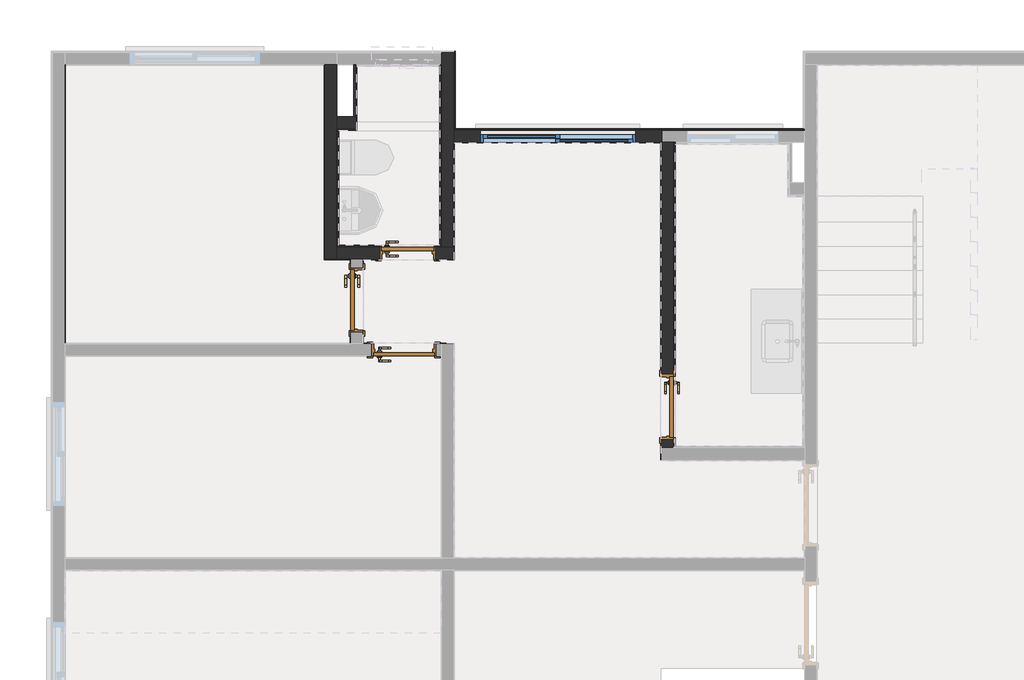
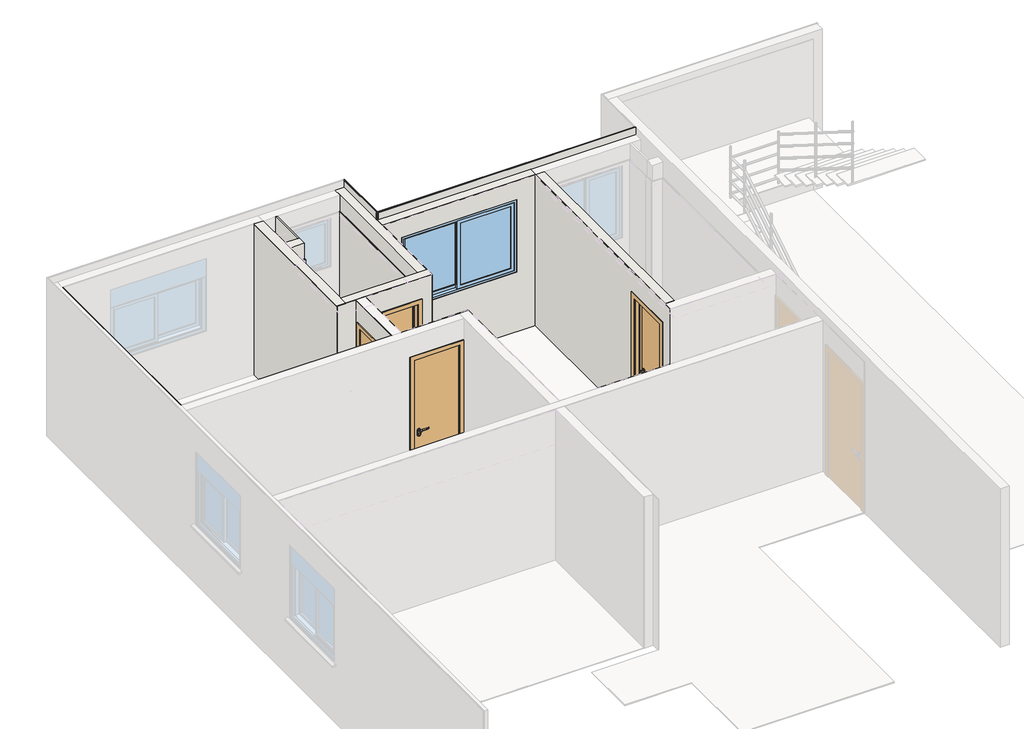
# One storey, part 5 of 11: 27 walls, 4 doors, 1 window.
"""IFC4 building model written with IfcOpenShell, lengths in millimetres."""

from ifc_helpers import new_model, si_unit, frame, origin, origin_with_axes, place, context, project, spatial, polyline, outline, extrude, faceted_brep, transform, mapped, element, save
from components import porta_de_madeira_interna_60_x_210_porta_de_madeira_interna_6d4bee1b, porta_de_madeira_interna_70_x_210_porta_de_madeira_interna_d0067c94, porta_de_madeira_interna_70_x_210_porta_de_madeira_interna_f307109d, window_180x120_e659ab7e

model = new_model("IFC4")

# Units and contexts
model_context = context("Model", 3, world=origin())
ifc_project = project(units=[si_unit("LENGTHUNIT", "METRE", prefix="MILLI")], contexts=[model_context])

# Site, building, storey
site = spatial("IfcSite", under=ifc_project)
building = spatial("IfcBuilding", under=site)
storey = spatial("IfcBuildingStorey", under=building, Name="Térreo", Elevation=0.0)

# Doors
placement = place(None, origin())
porta_de_madeira_interna_60_x_210_porta_de_madeira_interna_shape = porta_de_madeira_interna_60_x_210_porta_de_madeira_interna_6d4bee1b(model_context)
element("IfcDoor", 1, ObjectType="Porta de Madeira Interna 60 x 210 : Porta de Madeira Interna 60 x 210", at=placement, inside=storey, context=model_context, shape_type="MappedRepresentation", body=[
    mapped(porta_de_madeira_interna_60_x_210_porta_de_madeira_interna_shape, transform((4137.9990083, 10003.1988664, 0.0), x_axis=(1.0, 0.0, 0.0), y_axis=(0.0, 1.0, 0.0), z_axis=(0.0, 0.0, 1.0))),
])
porta_de_madeira_interna_70_x_210_porta_de_madeira_interna_shape = porta_de_madeira_interna_70_x_210_porta_de_madeira_interna_d0067c94(model_context)
element("IfcDoor", 2, ObjectType="Porta de Madeira Interna 70 x 210 : Porta de Madeira Interna 70 x 210", at=placement, inside=storey, context=model_context, shape_type="MappedRepresentation", body=[
    mapped(porta_de_madeira_interna_70_x_210_porta_de_madeira_interna_shape, transform((7146.1736861, 8221.3603139, 0.0), x_axis=(0.0, -1.0, 0.0), y_axis=(1.0, 0.0, 0.0), z_axis=(0.0, 0.0, 1.0))),
])
porta_de_madeira_interna_70_x_210_porta_de_madeira_interna_2_shape = porta_de_madeira_interna_70_x_210_porta_de_madeira_interna_f307109d(model_context)
element("IfcDoor", 3, ObjectType="Porta de Madeira Interna 70 x 210 : Porta de Madeira Interna 70 x 210", at=placement, inside=storey, context=model_context, shape_type="MappedRepresentation", body=[
    mapped(porta_de_madeira_interna_70_x_210_porta_de_madeira_interna_2_shape, transform((3546.8230641, 9457.0248023, 0.0), x_axis=(0.0, -1.0, 0.0), y_axis=(1.0, 0.0, 0.0), z_axis=(0.0, 0.0, 1.0))),
])
element("IfcDoor", 4, ObjectType="Porta de Madeira Interna 70 x 210 : Porta de Madeira Interna 70 x 210", at=placement, inside=storey, context=model_context, shape_type="MappedRepresentation", body=[
    mapped(porta_de_madeira_interna_70_x_210_porta_de_madeira_interna_2_shape, transform((4092.999908, 8876.8494803, 0.0), x_axis=(1.0, 0.0, 0.0), y_axis=(0.0, 1.0, 0.0), z_axis=(0.0, 0.0, 1.0))),
])

# Walls
element("IfcWall", 5, ObjectType="Mureta box", at=placement, inside=storey, context=model_context, shape_type="SweptSolid", body=[
    extrude(outline(polyline([(3529.99398, 11505.0235306), (4509.99398, 11505.0235306), (4509.99398, 11495.0235306), (3529.99398, 11495.0235306), (3529.99398, 11505.0235306)])), origin_with_axes(), (0.0, 0.0, 1.0), 90.0),
    extrude(outline(polyline([(4509.99398, 11425.0235306), (3529.99398, 11425.0235306), (3529.99398, 11435.0235306), (4509.99398, 11435.0235306), (4509.99398, 11425.0235306)])), origin_with_axes(), (0.0, 0.0, 1.0), 90.0),
    extrude(outline(polyline([(3529.99398, 11505.0235306), (4509.99398, 11505.0235306), (4509.99398, 11495.0235306), (3529.99398, 11495.0235306), (3529.99398, 11505.0235306)])), origin_with_axes(), (0.0, 0.0, 1.0), 90.0),
    extrude(outline(polyline([(4509.99398, 11425.0235306), (3529.99398, 11425.0235306), (3529.99398, 11435.0235306), (4509.99398, 11435.0235306), (4509.99398, 11425.0235306)])), origin_with_axes(), (0.0, 0.0, 1.0), 90.0),
    extrude(outline(polyline([(3529.99398, 11435.0235306), (3529.99398, 11495.0235306), (4509.99398, 11495.0235306), (4509.99398, 11435.0235306), (3529.99398, 11435.0235306)])), origin_with_axes(), (0.0, 0.0, 1.0), 90.0),
    extrude(outline(polyline([(3529.99398, 11435.0235306), (3529.99398, 11495.0235306), (4509.99398, 11495.0235306), (4509.99398, 11435.0235306), (3529.99398, 11435.0235306)])), origin_with_axes(), (0.0, 0.0, 1.0), 90.0),
])
element("IfcWall", 6, ObjectType="Alvenaria Estrutural", at=placement, inside=storey, context=model_context, shape_type="Brep", body=[
    faceted_brep([(3179.9977061, 12180.0252435, 0.0), (3179.9977061, 12174.0253822, 0.0), (3179.9977061, 9930.025593, 0.0), (3179.9977061, 9930.025593, 2510.0), (3179.9977061, 12174.0253822, 2510.0), (3179.9977061, 12180.0252435, 2510.0), (3319.9977061, 12180.0252435, 0.0), (3319.9977061, 12180.0252435, 2510.0), (3319.9977061, 11580.0235306, 2510.0), (3319.9977061, 11440.0235306, 2510.0), (3319.9977061, 10070.0238664, 2510.0), (3319.9977061, 9930.025593, 2510.0), (3319.9977061, 9930.025593, 0.0), (3319.9977061, 10070.0238664, 0.0), (3319.9977061, 10090.0238664, 0.0), (3319.9977061, 11420.0235306, 0.0), (3319.9977061, 11440.0235306, 0.0), (3319.9977061, 11580.0235306, 0.0)], [[[0, 1, 2, 3, 4, 5]], [[6, 7, 8, 9, 10, 11, 12, 13, 14, 15, 16, 17]], [[1, 0, 6, 17, 16, 15, 14, 13, 12, 2]], [[3, 2, 12, 11]], [[4, 3, 11, 10, 9, 8, 7, 5]], [[0, 5, 7, 6]]]),
    faceted_brep([(3319.9977061, 12180.0252435, 0.0), (3319.9977061, 12180.0252435, 2510.0), (3319.9977061, 11580.0235306, 2510.0), (3319.9977061, 11440.0235306, 2510.0), (3319.9977061, 10070.0238664, 2510.0), (3319.9977061, 9930.025593, 2510.0), (3319.9977061, 9930.025593, 0.0), (3319.9977061, 10070.0238664, 0.0), (3319.9977061, 10090.0238664, 0.0), (3319.9977061, 11420.0235306, 0.0), (3319.9977061, 11440.0235306, 0.0), (3319.9977061, 11580.0235306, 0.0), (3179.9977061, 12174.0253822, 0.0), (3179.9977061, 12180.0252435, 0.0), (3179.9977061, 9930.025593, 0.0), (3179.9977061, 9930.025593, 2510.0), (3179.9977061, 12174.0253822, 2510.0), (3179.9977061, 12180.0252435, 2510.0)], [[[0, 1, 2, 3, 4, 5, 6, 7, 8, 9, 10, 11]], [[12, 13, 0, 11, 10, 9, 8, 7, 6, 14]], [[15, 14, 6, 5]], [[16, 15, 5, 4, 3, 2, 1, 17]], [[13, 12, 14, 15, 16, 17]], [[13, 17, 1, 0]]]),
])
element("IfcWall", 7, ObjectType="Alvenaria Estrutural", at=placement, inside=storey, context=model_context, shape_type="Brep", body=[
    faceted_brep([(3319.9977061, 11440.0235306, 0.0), (3539.99398, 11440.0235306, 0.0), (3539.99398, 11440.0235306, 2510.0), (3319.9977061, 11440.0235306, 2510.0), (3319.9977061, 11580.0235306, 0.0), (3319.9977061, 11580.0235306, 2510.0), (3516.99398, 11580.0235306, 2510.0), (3539.99398, 11580.0235306, 2510.0), (3539.99398, 11580.0235306, 0.0), (3516.99398, 11580.0235306, 0.0)], [[[0, 1, 2, 3]], [[4, 5, 6, 7, 8, 9]], [[1, 0, 4, 9, 8]], [[3, 2, 7, 6, 5]], [[2, 1, 8, 7]], [[0, 3, 5, 4]]]),
    faceted_brep([(3319.9977061, 11580.0235306, 0.0), (3319.9977061, 11580.0235306, 2510.0), (3516.99398, 11580.0235306, 2510.0), (3539.99398, 11580.0235306, 2510.0), (3539.99398, 11580.0235306, 0.0), (3516.99398, 11580.0235306, 0.0), (3539.99398, 11440.0235306, 0.0), (3319.9977061, 11440.0235306, 0.0), (3319.9977061, 11440.0235306, 2510.0), (3539.99398, 11440.0235306, 2510.0)], [[[0, 1, 2, 3, 4, 5]], [[6, 7, 0, 5, 4]], [[8, 9, 3, 2, 1]], [[7, 6, 9, 8]], [[9, 6, 4, 3]], [[7, 8, 1, 0]]]),
])
element("IfcWall", 8, ObjectType="Alvenaria Estrutural", at=placement, inside=storey, context=model_context, shape_type="Brep", body=[
    faceted_brep([(4669.9986472, 9930.0238664, 2510.0), (3625.9980641, 9930.0238664, 2510.0), (3619.9980641, 9930.0238664, 2510.0), (3479.9980641, 9930.0238664, 2510.0), (3319.9977061, 9930.0238664, 2510.0), (3319.9977061, 9930.0238664, 0.0), (3479.9980641, 9930.0238664, 0.0), (3619.9980641, 9930.0238664, 0.0), (3625.9980641, 9930.0238664, 0.0), (3812.9990083, 9930.0238664, 0.0), (3812.9990083, 9930.0238664, 2125.0), (4462.9990083, 9930.0238664, 2125.0), (4462.9990083, 9930.0238664, 0.0), (4669.9986472, 9930.0238664, 0.0), (3319.9977061, 10070.0238664, 2510.0), (4529.9986472, 10070.0238664, 2510.0), (4669.9986472, 10070.0238664, 2510.0), (4669.9986472, 10070.0238664, 0.0), (4529.9986472, 10070.0238664, 0.0), (4462.9990083, 10070.0238664, 0.0), (4462.9990083, 10070.0238664, 2125.0), (3812.9990083, 10070.0238664, 2125.0), (3812.9990083, 10070.0238664, 0.0), (3319.9977061, 10070.0238664, 0.0), (3319.9977061, 10070.0238664, 2250.0)], [[[0, 1, 2, 3, 4, 5, 6, 7, 8, 9, 10, 11, 12, 13]], [[14, 15, 16, 17, 18, 19, 20, 21, 22, 23, 24]], [[6, 5, 23, 22, 9, 8, 7]], [[1, 0, 16, 15, 14, 4, 3, 2]], [[12, 11, 20, 19]], [[11, 10, 21, 20]], [[10, 9, 22, 21]], [[0, 13, 17, 16]], [[5, 4, 14, 24, 23]], [[13, 12, 19, 18, 17]]]),
    faceted_brep([(3479.9980641, 9930.0238664, 0.0), (3319.9977061, 9930.0238664, 0.0), (3319.9977061, 10070.0238664, 0.0), (3812.9990083, 10070.0238664, 0.0), (3812.9990083, 9930.0238664, 0.0), (3625.9980641, 9930.0238664, 0.0), (3619.9980641, 9930.0238664, 0.0), (3625.9980641, 9930.0238664, 2510.0), (4669.9986472, 9930.0238664, 2510.0), (4669.9986472, 10070.0238664, 2510.0), (4529.9986472, 10070.0238664, 2510.0), (3319.9977061, 10070.0238664, 2510.0), (3319.9977061, 9930.0238664, 2510.0), (3479.9980641, 9930.0238664, 2510.0), (3619.9980641, 9930.0238664, 2510.0), (4462.9990083, 9930.0238664, 0.0), (4462.9990083, 9930.0238664, 2125.0), (4462.9990083, 10070.0238664, 2125.0), (4462.9990083, 10070.0238664, 0.0), (3812.9990083, 9930.0238664, 2125.0), (3812.9990083, 10070.0238664, 2125.0), (4669.9986472, 9930.0238664, 0.0), (4529.9986472, 10070.0238664, 0.0), (4669.9986472, 10070.0238664, 0.0), (3319.9977061, 10070.0238664, 2250.0)], [[[0, 1, 2, 3, 4, 5, 6]], [[7, 8, 9, 10, 11, 12, 13, 14]], [[15, 16, 17, 18]], [[16, 19, 20, 17]], [[19, 4, 3, 20]], [[21, 15, 18, 22, 23]], [[8, 7, 14, 13, 12, 1, 0, 6, 5, 4, 19, 16, 15, 21]], [[11, 10, 9, 23, 22, 18, 17, 20, 3, 2, 24]], [[8, 21, 23, 9]], [[1, 12, 11, 24, 2]]]),
])
element("IfcWall", 9, ObjectType="Alvenaria Estrutural", at=placement, inside=storey, context=model_context, shape_type="Brep", body=[
    faceted_brep([(4529.9986472, 12320.025593, 0.0), (4529.9986472, 12180.025593, 0.0), (4529.9986472, 10090.0238664, 0.0), (4529.9986472, 10070.0238664, 0.0), (4529.9986472, 10070.0238664, 2250.0), (4529.9986472, 10070.0238664, 2510.0), (4529.9986472, 12180.025593, 2510.0), (4529.9986472, 12320.025593, 2510.0), (4669.9986472, 12320.025593, 0.0), (4669.9986472, 12320.025593, 2510.0), (4669.9986472, 11420.0223004, 2510.0), (4669.9986472, 11280.0223004, 2510.0), (4669.9986472, 11274.0223004, 2510.0), (4669.9986472, 10070.0238664, 2510.0), (4669.9986472, 10070.0238664, 0.0), (4669.9986472, 11274.0223004, 0.0), (4669.9986472, 11280.0223004, 0.0), (4669.9986472, 11420.0223004, 0.0), (4669.9986472, 11436.0223004, 0.0)], [[[0, 1, 2, 3, 4, 5, 6, 7]], [[8, 9, 10, 11, 12, 13, 14, 15, 16, 17, 18]], [[1, 0, 8, 18, 17, 16, 15, 14, 3, 2]], [[6, 5, 13, 12, 11, 10, 9, 7]], [[0, 7, 9, 8]], [[4, 3, 14, 13, 5]]]),
    faceted_brep([(4529.9986472, 12180.025593, 0.0), (4529.9986472, 12320.025593, 0.0), (4669.9986472, 12320.025593, 0.0), (4669.9986472, 11436.0223004, 0.0), (4669.9986472, 11420.0223004, 0.0), (4669.9986472, 11280.0223004, 0.0), (4669.9986472, 11274.0223004, 0.0), (4669.9986472, 10070.0238664, 0.0), (4529.9986472, 10070.0238664, 0.0), (4529.9986472, 10090.0238664, 0.0), (4529.9986472, 12180.025593, 2510.0), (4529.9986472, 10070.0238664, 2510.0), (4669.9986472, 10070.0238664, 2510.0), (4669.9986472, 11274.0223004, 2510.0), (4669.9986472, 11280.0223004, 2510.0), (4669.9986472, 11420.0223004, 2510.0), (4669.9986472, 12320.025593, 2510.0), (4529.9986472, 12320.025593, 2510.0), (4529.9986472, 10070.0238664, 2250.0)], [[[0, 1, 2, 3, 4, 5, 6, 7, 8, 9]], [[10, 11, 12, 13, 14, 15, 16, 17]], [[1, 0, 9, 8, 18, 11, 10, 17]], [[2, 16, 15, 14, 13, 12, 7, 6, 5, 4, 3]], [[1, 17, 16, 2]], [[18, 8, 7, 12, 11]]]),
])
element("IfcWall", 10, ObjectType="Alvenaria Estrutural", at=placement, inside=storey, context=model_context, shape_type="Brep", body=[
    faceted_brep([(4669.9990083, 11280.0223004, 0.0), (4675.9990083, 11280.0223004, 0.0), (7066.9986861, 11280.0223004, 0.0), (7072.9986861, 11280.0223004, 0.0), (7079.9990083, 11280.0223004, 0.0), (7079.9990083, 11280.0223004, 2510.0), (7072.9986861, 11280.0223004, 2510.0), (7066.9986861, 11280.0223004, 2510.0), (4675.9990083, 11280.0223004, 2510.0), (4669.9990083, 11280.0223004, 2510.0), (6774.99925, 11280.0223004, 2200.0), (6774.99925, 11280.0223004, 1000.0), (4974.99925, 11280.0223004, 1000.0), (4974.99925, 11280.0223004, 2200.0), (7079.9990083, 11420.0223004, 0.0), (4685.9976538, 11420.0223004, 0.0), (4669.9990083, 11420.0223004, 0.0), (4669.9990083, 11420.0223004, 2510.0), (7079.9990083, 11420.0223004, 2510.0), (6774.99925, 11420.0223004, 1000.0), (6774.99925, 11420.0223004, 2200.0), (4974.99925, 11420.0223004, 2200.0), (4974.99925, 11420.0223004, 1000.0), (4924.99925, 11420.0223004, 1000.0), (4924.99925, 11420.0223004, 951.3083694), (6824.99925, 11420.0223004, 951.3083694), (6824.99925, 11420.0223004, 1000.0), (6774.99925, 11322.5223004, 1000.0), (4974.99925, 11322.5223004, 1000.0), (4924.99925, 11322.5223004, 1000.0), (4924.99925, 11322.5223004, 972.0326341), (6824.99925, 11322.5223004, 972.0326341), (6824.99925, 11322.5223004, 1000.0)], [[[0, 1, 2, 3, 4, 5, 6, 7, 8, 9], [10, 11, 12, 13]], [[14, 15, 16, 17, 18], [19, 20, 21, 22, 23, 24, 25, 26]], [[1, 0, 16, 15, 14, 4, 3, 2]], [[5, 4, 14, 18]], [[6, 5, 18, 17, 9, 8, 7]], [[0, 9, 17, 16]], [[11, 10, 20, 19, 27]], [[10, 13, 21, 20]], [[13, 12, 28, 22, 21]], [[12, 11, 27, 28]], [[24, 23, 29, 30]], [[26, 25, 31, 32]], [[28, 27, 32, 31, 30, 29]], [[23, 22, 28, 29]], [[25, 24, 30, 31]], [[19, 26, 32, 27]]]),
    faceted_brep([(4675.9990083, 11280.0223004, 0.0), (4669.9990083, 11280.0223004, 0.0), (4669.9990083, 11420.0223004, 0.0), (4685.9976538, 11420.0223004, 0.0), (7079.9990083, 11420.0223004, 0.0), (7079.9990083, 11280.0223004, 0.0), (7072.9986861, 11280.0223004, 0.0), (7066.9986861, 11280.0223004, 0.0), (7079.9990083, 11280.0223004, 2510.0), (7079.9990083, 11420.0223004, 2510.0), (7072.9986861, 11280.0223004, 2510.0), (4669.9990083, 11420.0223004, 2510.0), (4669.9990083, 11280.0223004, 2510.0), (4675.9990083, 11280.0223004, 2510.0), (7066.9986861, 11280.0223004, 2510.0), (6774.99925, 11280.0223004, 1000.0), (6774.99925, 11280.0223004, 2200.0), (6774.99925, 11420.0223004, 2200.0), (6774.99925, 11420.0223004, 1000.0), (6774.99925, 11322.5223004, 1000.0), (4974.99925, 11280.0223004, 2200.0), (4974.99925, 11420.0223004, 2200.0), (4974.99925, 11280.0223004, 1000.0), (4974.99925, 11322.5223004, 1000.0), (4974.99925, 11420.0223004, 1000.0), (4924.99925, 11420.0223004, 951.3083694), (4924.99925, 11420.0223004, 1000.0), (4924.99925, 11322.5223004, 1000.0), (4924.99925, 11322.5223004, 972.0326341), (6824.99925, 11420.0223004, 1000.0), (6824.99925, 11420.0223004, 951.3083694), (6824.99925, 11322.5223004, 972.0326341), (6824.99925, 11322.5223004, 1000.0)], [[[0, 1, 2, 3, 4, 5, 6, 7]], [[8, 5, 4, 9]], [[10, 8, 9, 11, 12, 13, 14]], [[1, 12, 11, 2]], [[15, 16, 17, 18, 19]], [[16, 20, 21, 17]], [[20, 22, 23, 24, 21]], [[22, 15, 19, 23]], [[25, 26, 27, 28]], [[29, 30, 31, 32]], [[23, 19, 32, 31, 28, 27]], [[26, 24, 23, 27]], [[30, 25, 28, 31]], [[18, 29, 32, 19]], [[4, 3, 2, 11, 9], [18, 17, 21, 24, 26, 25, 30, 29]], [[1, 0, 7, 6, 5, 8, 10, 14, 13, 12], [16, 15, 22, 20]]]),
])
element("IfcWall", 11, ObjectType="Alvenaria Estrutural", at=placement, inside=storey, context=model_context, shape_type="Brep", body=[
    faceted_brep([(7072.9986861, 7746.3603139, 2510.0), (7072.9986861, 11274.0223004, 2510.0), (7072.9986861, 11280.0223004, 2510.0), (7072.9986861, 11280.0223004, 0.0), (7072.9986861, 11274.0223004, 0.0), (7072.9986861, 8596.3603139, 0.0), (7072.9986861, 8596.3603139, 2125.0), (7072.9986861, 7846.3603139, 2125.0), (7072.9986861, 7846.3603139, 0.0), (7072.9986861, 7746.3603139, 0.0), (7212.9986861, 11280.0223004, 2510.0), (7212.9986861, 7746.3603139, 2510.0), (7212.9986861, 7746.3603139, 2250.0), (7212.9986861, 7746.3603139, 0.0), (7212.9986861, 7766.3603139, 0.0), (7212.9986861, 7846.3603139, 0.0), (7212.9986861, 7846.3603139, 2125.0), (7212.9986861, 8596.3603139, 2125.0), (7212.9986861, 8596.3603139, 0.0), (7212.9986861, 11260.0223004, 0.0), (7212.9986861, 11280.0223004, 0.0), (7212.9986861, 11280.0223004, 2250.0), (7079.9990083, 11280.0223004, 0.0), (7079.9990083, 11280.0223004, 2510.0)], [[[0, 1, 2, 3, 4, 5, 6, 7, 8, 9]], [[10, 11, 12, 13, 14, 15, 16, 17, 18, 19, 20, 21]], [[4, 3, 22, 20, 19, 18, 5]], [[1, 0, 11, 10, 23, 2]], [[8, 7, 16, 15]], [[7, 6, 17, 16]], [[6, 5, 18, 17]], [[0, 9, 13, 12, 11]], [[3, 2, 23, 10, 21, 20, 22]], [[9, 8, 15, 14, 13]]]),
])
element("IfcWall", 12, ObjectType="Azulejo", at=placement, inside=storey, context=model_context, shape_type="SweptSolid", body=[
    extrude(outline(polyline([(11280.0223004, 0.0), (8596.3603139, 0.0), (8596.3603139, 2125.0), (7846.3603139, 2125.0), (7846.3603139, 0.0), (7746.3603139, 0.0), (7746.3603139, 2250.0), (11280.0223004, 2250.0), (11280.0223004, 0.0)])), frame((7223.0017324, 0.0, 0.0), z_axis=(1.0, 0.0, 0.0), x_axis=(0.0, 1.0, 0.0)), (0.0, 0.0, 1.0), 10.0),
    extrude(outline(polyline([(7746.3603139, 2250.0), (11280.0223004, 2250.0), (11280.0223004, 0.0), (8596.3603139, 0.0), (8596.3603139, 2125.0), (7846.3603139, 2125.0), (7846.3603139, 0.0), (7746.3603139, 0.0), (7746.3603139, 2250.0)])), frame((7213.0017324, 0.0, 0.0), z_axis=(1.0, 0.0, 0.0), x_axis=(0.0, 1.0, 0.0)), (0.0, 0.0, 1.0), 10.0),
])
element("IfcWall", 13, ObjectType="Azulejo", at=placement, inside=storey, context=model_context, shape_type="SolidModel", body=[
    faceted_brep([(3339.9976538, 10090.0238664, 0.0), (3812.9990083, 10090.0238664, 0.0), (3812.9990083, 10080.0238664, 0.0), (3329.9976538, 10080.0238664, 0.0), (3329.9976538, 10090.0238664, 0.0), (4509.9990083, 10090.0238664, 2250.0), (3339.9976538, 10090.0238664, 2250.0), (3329.9976538, 10090.0238664, 2250.0), (3329.9976538, 10080.0238664, 2250.0), (4519.9990083, 10080.0238664, 2250.0), (4519.9990083, 10090.0238664, 2250.0), (4462.9990083, 10090.0238664, 2125.0), (4462.9990083, 10090.0238664, 0.0), (4462.9990083, 10080.0238664, 0.0), (4462.9990083, 10080.0238664, 2125.0), (3812.9990083, 10080.0238664, 2125.0), (3812.9990083, 10090.0238664, 2125.0), (4509.9990083, 10090.0238664, 0.0), (4519.9990083, 10090.0238664, 0.0), (4519.9990083, 10080.0238664, 0.0)], [[[0, 1, 2, 3, 4]], [[5, 6, 7, 8, 9, 10]], [[11, 12, 13, 14]], [[11, 14, 15, 16]], [[2, 1, 16, 15]], [[13, 12, 17, 18, 19]], [[14, 13, 19, 9, 8, 3, 2, 15]], [[1, 0, 4, 7, 6, 5, 10, 18, 17, 12, 11, 16]], [[4, 3, 8, 7]], [[10, 9, 19, 18]]]),
    extrude(outline(polyline([(2250.0, 4529.9986472), (2250.0, 3319.9977061), (0.0, 3319.9977061), (0.0, 3812.9990083), (2125.0, 3812.9990083), (2125.0, 4462.9990083), (0.0, 4462.9990083), (0.0, 4529.9986472), (2250.0, 4529.9986472)])), frame((0.0, 10070.0238664, 0.0), z_axis=(0.0, 1.0, 0.0), x_axis=(0.0, 0.0, 1.0)), (0.0, 0.0, 1.0), 10.0),
])
element("IfcWall", 14, ObjectType="Azulejo", at=placement, inside=storey, context=model_context, shape_type="SolidModel", body=[
    faceted_brep([(4519.9990083, 10090.0238664, 0.0), (4509.9990083, 10090.0238664, 0.0), (4509.9990083, 12160.025593, 0.0), (4509.9990083, 12170.025593, 0.0), (4519.9990083, 12170.025593, 0.0), (4509.9990083, 12160.025593, 2250.0), (4509.9990083, 10090.0238664, 2250.0), (4519.9990083, 10090.0238664, 2250.0), (4519.9990083, 12170.025593, 2250.0), (4509.9990083, 12170.025593, 2250.0)], [[[0, 1, 2, 3, 4]], [[5, 6, 7, 8, 9]], [[1, 0, 7, 6]], [[7, 0, 4, 8]], [[2, 1, 6, 5, 9, 3]], [[4, 3, 9, 8]]]),
    extrude(outline(polyline([(4529.9990083, 12180.025593), (4529.9990083, 10080.0238664), (4519.9990083, 10080.0238664), (4519.9990083, 12180.025593), (4529.9990083, 12180.025593)])), origin_with_axes(), (0.0, 0.0, 1.0), 2250.0),
])
element("IfcWall", 15, ObjectType="Azulejo", at=placement, inside=storey, context=model_context, shape_type="SweptSolid", body=[
    extrude(outline(polyline([(3549.99398, 11580.0235306), (3549.99398, 11430.0235306), (3539.99398, 11430.0235306), (3539.99398, 11580.0235306), (3549.99398, 11580.0235306)])), origin_with_axes(), (0.0, 0.0, 1.0), 2250.0),
    extrude(outline(polyline([(3529.99398, 11440.0235306), (3529.99398, 11580.0235306), (3539.99398, 11580.0235306), (3539.99398, 11440.0235306), (3529.99398, 11440.0235306)])), origin_with_axes(), (0.0, 0.0, 1.0), 2250.0),
])
element("IfcWall", 16, ObjectType="Azulejo", at=placement, inside=storey, context=model_context, shape_type="Brep", body=[
    faceted_brep([(3549.99398, 11430.0235306, 0.0), (3549.99398, 11420.0235306, 0.0), (3339.9976538, 11420.0235306, 0.0), (3329.9976538, 11420.0235306, 0.0), (3329.9976538, 11430.0235306, 0.0), (3339.9976538, 11420.0235306, 2250.0), (3549.99398, 11420.0235306, 2250.0), (3549.99398, 11430.0235306, 2250.0), (3329.9976538, 11430.0235306, 2250.0), (3329.9976538, 11420.0235306, 2250.0)], [[[0, 1, 2, 3, 4]], [[5, 6, 7, 8, 9]], [[1, 0, 7, 6]], [[7, 0, 4, 8]], [[2, 1, 6, 5, 9, 3]], [[4, 3, 9, 8]]]),
    faceted_brep([(3319.9977061, 11430.0235306, 0.0), (3539.99398, 11430.0235306, 0.0), (3539.99398, 11430.0235306, 2250.0), (3319.9977061, 11430.0235306, 2250.0), (3319.9977061, 11440.0235306, 0.0), (3319.9977061, 11440.0235306, 2250.0), (3529.99398, 11440.0235306, 2250.0), (3539.99398, 11440.0235306, 2250.0), (3539.99398, 11440.0235306, 0.0), (3529.99398, 11440.0235306, 0.0)], [[[0, 1, 2, 3]], [[4, 5, 6, 7, 8, 9]], [[9, 8, 1, 0, 4]], [[6, 5, 3, 2, 7]], [[5, 4, 0, 3]], [[8, 7, 2, 1]]]),
])
element("IfcWall", 17, ObjectType="Azulejo", at=placement, inside=storey, context=model_context, shape_type="SweptSolid", body=[
    extrude(outline(polyline([(3339.9976538, 11420.0235306), (3339.9976538, 10090.0238664), (3329.9976538, 10090.0238664), (3329.9976538, 11420.0235306), (3339.9976538, 11420.0235306)])), origin_with_axes(), (0.0, 0.0, 1.0), 2250.0),
    extrude(outline(polyline([(3319.9976538, 10080.0238664), (3319.9976538, 11430.0235306), (3329.9976538, 11430.0235306), (3329.9976538, 10080.0238664), (3319.9976538, 10080.0238664)])), origin_with_axes(), (0.0, 0.0, 1.0), 2250.0),
])
element("IfcWall", 18, ObjectType="Azulejo - Shaft", at=placement, inside=storey, context=model_context, shape_type="SweptSolid", body=[
    extrude(outline(polyline([(3539.99398, 11580.0235306), (3539.99398, 12160.025593), (3549.99398, 12160.025593), (3549.99398, 11580.0235306), (3539.99398, 11580.0235306)])), origin_with_axes(), (0.0, 0.0, 1.0), 2250.0),
])
element("IfcWall", 19, ObjectType="Gesso Liso + Pintura", at=placement, inside=storey, context=model_context, shape_type="SolidModel", body=[
    faceted_brep([(175.9991825, 12174.0253822, 0.0), (175.9991825, 8950.0244803, 0.0), (174.9991825, 8950.0244803, 0.0), (174.9991825, 12175.0253822, 0.0), (175.9991825, 12175.0253822, 0.0), (174.9991825, 8950.0244803, 2510.0), (175.9991825, 8950.0244803, 2510.0), (175.9991825, 12174.0253822, 2510.0), (175.9991825, 12175.0253822, 2510.0), (174.9991825, 12175.0253822, 2510.0)], [[[0, 1, 2, 3, 4]], [[5, 6, 7, 8, 9]], [[2, 1, 6, 5]], [[2, 5, 9, 3]], [[1, 0, 4, 8, 7, 6]], [[4, 3, 9, 8]]]),
    extrude(outline(polyline([(169.9991825, 8950.0244803), (169.9991825, 12180.0252435), (174.9991825, 12180.0252435), (174.9991825, 8950.0244803), (169.9991825, 8950.0244803)])), origin_with_axes(), (0.0, 0.0, 1.0), 2510.0),
])
element("IfcWall", 20, ObjectType="Gesso Liso + Pintura", at=placement, inside=storey, context=model_context, shape_type="SolidModel", body=[
    extrude(outline(polyline([(3173.9976538, 9924.0238664), (3173.9976538, 12174.0253822), (3174.9976538, 12174.0253822), (3174.9976538, 9924.0238664), (3173.9976538, 9924.0238664)])), origin_with_axes(), (0.0, 0.0, 1.0), 2510.0),
    faceted_brep([(3174.9976538, 12175.0253822, 0.0), (3174.9976538, 9925.0238664, 0.0), (3174.9976538, 9925.0238664, 2510.0), (3174.9976538, 12175.0253822, 2510.0), (3179.9976538, 12175.0253822, 0.0), (3179.9976538, 12175.0253822, 2510.0), (3179.9976538, 9930.0238664, 2510.0), (3179.9976538, 9925.0238664, 2510.0), (3179.9976538, 9925.0238664, 0.0), (3179.9976538, 9930.0238664, 0.0)], [[[0, 1, 2, 3]], [[4, 5, 6, 7, 8, 9]], [[9, 8, 1, 0, 4]], [[6, 5, 3, 2, 7]], [[5, 4, 0, 3]], [[8, 7, 2, 1]]]),
])
element("IfcWall", 21, ObjectType="Gesso Liso + Pintura", at=placement, inside=storey, context=model_context, shape_type="SolidModel", body=[
    faceted_brep([(3473.9980641, 9924.0238664, 0.0), (3174.9976538, 9924.0238664, 0.0), (3174.9976538, 9925.0238664, 0.0), (3474.9980641, 9925.0238664, 0.0), (3474.9980641, 9924.0238664, 0.0), (3174.9976538, 9924.0238664, 2510.0), (3473.9980641, 9924.0238664, 2510.0), (3474.9980641, 9924.0238664, 2510.0), (3474.9980641, 9925.0238664, 2510.0), (3174.9976538, 9925.0238664, 2510.0)], [[[0, 1, 2, 3, 4]], [[5, 6, 7, 8, 9]], [[2, 9, 8, 3]], [[1, 0, 4, 7, 6, 5]], [[1, 5, 9, 2]], [[4, 3, 8, 7]]]),
    extrude(outline(polyline([(3179.9976538, 9930.0238664), (3479.9980641, 9930.0238664), (3479.9980641, 9925.0238664), (3179.9976538, 9925.0238664), (3179.9976538, 9930.0238664)])), origin_with_axes(), (0.0, 0.0, 1.0), 2510.0),
])
element("IfcWall", 22, ObjectType="Gesso Liso + Pintura", at=placement, inside=storey, context=model_context, shape_type="SolidModel", body=[
    faceted_brep([(3473.9980641, 9832.0248023, 0.0), (3473.9980641, 9924.0238664, 0.0), (3474.9980641, 9924.0238664, 0.0), (3474.9980641, 9832.0248023, 0.0), (3474.9980641, 9924.0238664, 2510.0), (3473.9980641, 9924.0238664, 2510.0), (3473.9980641, 8956.0244803, 2510.0), (3473.9980641, 8955.0244803, 2510.0), (3474.9980641, 8955.0244803, 2510.0), (3473.9980641, 9082.0248023, 0.0), (3473.9980641, 9082.0248023, 2125.0), (3474.9980641, 9082.0248023, 2125.0), (3474.9980641, 9082.0248023, 0.0), (3473.9980641, 9832.0248023, 2125.0), (3474.9980641, 9832.0248023, 2125.0), (3474.9980641, 8955.0244803, 0.0), (3473.9980641, 8955.0244803, 0.0), (3473.9980641, 8956.0244803, 0.0)], [[[0, 1, 2, 3]], [[4, 5, 6, 7, 8]], [[9, 10, 11, 12]], [[11, 10, 13, 14]], [[0, 3, 14, 13]], [[2, 1, 5, 4]], [[9, 12, 15, 16, 17]], [[3, 2, 4, 8, 15, 12, 11, 14]], [[1, 0, 13, 10, 9, 17, 16, 7, 6, 5]], [[8, 7, 16, 15]]]),
    extrude(outline(polyline([(9925.0238664, 0.0), (9832.0248023, 0.0), (9832.0248023, 2125.0), (9082.0248023, 2125.0), (9082.0248023, 0.0), (8950.0244803, 0.0), (8950.0244803, 2510.0), (9925.0238664, 2510.0), (9925.0238664, 0.0)])), frame((3474.9980641, 0.0, 0.0), z_axis=(1.0, 0.0, 0.0), x_axis=(0.0, 1.0, 0.0)), (0.0, 0.0, 1.0), 5.0),
])
element("IfcWall", 23, ObjectType="Gesso Liso + Pintura", at=placement, inside=storey, context=model_context, shape_type="SolidModel", body=[
    extrude(outline(polyline([(4675.9990083, 11280.0223004), (4675.9990083, 9924.0238664), (4674.9990083, 9924.0238664), (4674.9990083, 11280.0223004), (4675.9990083, 11280.0223004)])), origin_with_axes(), (0.0, 0.0, 1.0), 2510.0),
    faceted_brep([(4674.9990083, 9925.0238664, 0.0), (4674.9990083, 11280.0223004, 0.0), (4674.9990083, 11280.0223004, 2510.0), (4674.9990083, 9925.0238664, 2510.0), (4669.9990083, 11280.0223004, 0.0), (4669.9990083, 9930.0238664, 0.0), (4669.9990083, 9925.0238664, 0.0), (4669.9990083, 9925.0238664, 2510.0), (4669.9990083, 9930.0238664, 2510.0), (4669.9990083, 11280.0223004, 2510.0)], [[[0, 1, 2, 3]], [[4, 5, 6, 7, 8, 9]], [[5, 4, 1, 0, 6]], [[8, 7, 3, 2, 9]], [[4, 9, 2, 1]], [[7, 6, 0, 3]]]),
])
element("IfcWall", 24, ObjectType="Gesso Liso + Pintura", at=placement, inside=storey, context=model_context, shape_type="SweptSolid", body=[
    extrude(outline(polyline([(2510.0, 4674.9990083), (2510.0, 3619.9980641), (0.0, 3619.9980641), (0.0, 3812.9990083), (2125.0, 3812.9990083), (2125.0, 4462.9990083), (0.0, 4462.9990083), (0.0, 4674.9990083), (2510.0, 4674.9990083)])), frame((0.0, 9924.0238664, 0.0), z_axis=(0.0, 1.0, 0.0), x_axis=(0.0, 0.0, 1.0)), (0.0, 0.0, 1.0), 1.0),
    extrude(outline(polyline([(0.0, 4462.9990083), (0.0, 4669.9990083), (2510.0, 4669.9990083), (2510.0, 3619.9980641), (0.0, 3619.9980641), (0.0, 3812.9990083), (2125.0, 3812.9990083), (2125.0, 4462.9990083), (0.0, 4462.9990083)])), frame((0.0, 9925.0238664, 0.0), z_axis=(0.0, 1.0, 0.0), x_axis=(0.0, 0.0, 1.0)), (0.0, 0.0, 1.0), 5.0),
])
element("IfcWall", 25, ObjectType="Gesso Liso + Pintura", at=placement, inside=storey, context=model_context, shape_type="SweptSolid", body=[
    extrude(outline(polyline([(9930.0238664, 0.0), (9832.0248023, 0.0), (9832.0248023, 2125.0), (9082.0248023, 2125.0), (9082.0248023, 0.0), (8950.0244803, 0.0), (8950.0244803, 2510.0), (9930.0238664, 2510.0), (9930.0238664, 0.0)])), frame((3624.9980641, 0.0, 0.0), z_axis=(1.0, 0.0, 0.0), x_axis=(0.0, 1.0, 0.0)), (0.0, 0.0, 1.0), 1.0),
    extrude(outline(polyline([(8950.0244803, 2510.0), (9930.0238664, 2510.0), (9930.0238664, 0.0), (9832.0248023, 0.0), (9832.0248023, 2125.0), (9082.0248023, 2125.0), (9082.0248023, 0.0), (8950.0244803, 0.0), (8950.0244803, 2510.0)])), frame((3619.9980641, 0.0, 0.0), z_axis=(1.0, 0.0, 0.0), x_axis=(0.0, 1.0, 0.0)), (0.0, 0.0, 1.0), 5.0),
])
element("IfcWall", 26, ObjectType="Gesso Liso + Pintura", at=placement, inside=storey, context=model_context, shape_type="SolidModel", body=[
    extrude(outline(polyline([(0.0, 3619.9980641), (0.0, 3717.999908), (2125.0, 3717.999908), (2125.0, 4467.999908), (0.0, 4467.999908), (0.0, 4674.9996867), (2510.0, 4674.9996867), (2510.0, 3619.9980641), (0.0, 3619.9980641)])), frame((0.0, 8955.0244803, 0.0), z_axis=(0.0, 1.0, 0.0), x_axis=(0.0, 0.0, 1.0)), (0.0, 0.0, 1.0), 1.0),
    faceted_brep([(3717.999908, 8955.0244803, 0.0), (3619.9980641, 8955.0244803, 0.0), (3619.9980641, 8955.0244803, 2510.0), (4669.9996867, 8955.0244803, 2510.0), (4669.9996867, 8955.0244803, 0.0), (4467.999908, 8955.0244803, 0.0), (4467.999908, 8955.0244803, 2125.0), (3717.999908, 8955.0244803, 2125.0), (4669.9996867, 8950.0244803, 2510.0), (4529.9996867, 8950.0244803, 2510.0), (3619.9980641, 8950.0244803, 2510.0), (3619.9980641, 8950.0244803, 0.0), (3717.999908, 8950.0244803, 0.0), (3717.999908, 8950.0244803, 2125.0), (4467.999908, 8950.0244803, 2125.0), (4467.999908, 8950.0244803, 0.0), (4529.9996867, 8950.0244803, 0.0), (4669.9996867, 8950.0244803, 0.0)], [[[0, 1, 2, 3, 4, 5, 6, 7]], [[8, 9, 10, 11, 12, 13, 14, 15, 16, 17]], [[12, 11, 1, 0]], [[9, 8, 3, 2, 10]], [[15, 14, 6, 5]], [[14, 13, 7, 6]], [[13, 12, 0, 7]], [[8, 17, 4, 3]], [[11, 10, 2, 1]], [[16, 15, 5, 4, 17]]]),
])
element("IfcWall", 27, ObjectType="Gesso Liso + Pintura", at=placement, inside=storey, context=model_context, shape_type="SolidModel", body=[
    extrude(outline(polyline([(7601.3603139, 2510.0), (11280.0223004, 2510.0), (11280.0223004, 0.0), (8596.3603139, 0.0), (8596.3603139, 2125.0), (7846.3603139, 2125.0), (7846.3603139, 0.0), (7601.3603139, 0.0), (7601.3603139, 2510.0)])), frame((7066.9986861, 0.0, 0.0), z_axis=(1.0, 0.0, 0.0), x_axis=(0.0, 1.0, 0.0)), (0.0, 0.0, 1.0), 1.0),
    faceted_brep([(7067.9986861, 7846.3603139, 0.0), (7067.9986861, 7606.3603139, 0.0), (7067.9986861, 7606.3603139, 2510.0), (7067.9986861, 11280.0223004, 2510.0), (7067.9986861, 11280.0223004, 0.0), (7067.9986861, 8596.3603139, 0.0), (7067.9986861, 8596.3603139, 2125.0), (7067.9986861, 7846.3603139, 2125.0), (7072.9986861, 11280.0223004, 2510.0), (7072.9986861, 7746.3603139, 2510.0), (7072.9986861, 7606.3603139, 2510.0), (7072.9986861, 7606.3603139, 0.0), (7072.9986861, 7746.3603139, 0.0), (7072.9986861, 7846.3603139, 0.0), (7072.9986861, 7846.3603139, 2125.0), (7072.9986861, 8596.3603139, 2125.0), (7072.9986861, 8596.3603139, 0.0), (7072.9986861, 11280.0223004, 0.0)], [[[0, 1, 2, 3, 4, 5, 6, 7]], [[8, 9, 10, 11, 12, 13, 14, 15, 16, 17]], [[12, 11, 1, 0, 13]], [[9, 8, 3, 2, 10]], [[14, 13, 0, 7]], [[15, 14, 7, 6]], [[16, 15, 6, 5]], [[11, 10, 2, 1]], [[8, 17, 4, 3]], [[17, 16, 5, 4]]]),
])
element("IfcWall", 28, ObjectType="Gesso Liso + Pintura", at=placement, inside=storey, context=model_context, shape_type="SweptSolid", body=[
    extrude(outline(polyline([(0.0, 7072.9986861), (2510.0, 7072.9986861), (2510.0, 4669.9986472), (0.0, 4669.9986472), (0.0, 7072.9986861)]), holes=[polyline([(1000.0, 6774.99925), (1000.0, 4974.99925), (2200.0, 4974.99925), (2200.0, 6774.99925), (1000.0, 6774.99925)])]), frame((0.0, 11274.0223004, 0.0), z_axis=(0.0, 1.0, 0.0), x_axis=(0.0, 0.0, 1.0)), (0.0, 0.0, 1.0), 1.0),
    extrude(outline(polyline([(0.0, 4669.9986472), (0.0, 7072.9986861), (2510.0, 7072.9986861), (2510.0, 4669.9986472), (0.0, 4669.9986472)]), holes=[polyline([(2200.0, 6774.99925), (1000.0, 6774.99925), (1000.0, 4974.99925), (2200.0, 4974.99925), (2200.0, 6774.99925)])]), frame((0.0, 11275.0223004, 0.0), z_axis=(0.0, 1.0, 0.0), x_axis=(0.0, 0.0, 1.0)), (0.0, 0.0, 1.0), 5.0),
])
element("IfcWall", 29, ObjectType="Reboco + Pintura Externa", at=placement, inside=storey, context=model_context, shape_type="SolidModel", body=[
    extrude(outline(polyline([(4685.9976538, 12334.9952456), (4685.9976538, 11420.0223004), (4684.9976538, 11420.0223004), (4684.9976538, 12334.9952456), (4685.9976538, 12334.9952456)])), origin_with_axes(), (0.0, 0.0, 1.0), 2630.0),
    faceted_brep([(4674.9976538, 11420.0223004, 0.0), (4674.9976538, 12319.9952456, 0.0), (4674.9976538, 12319.9952456, 2630.0), (4674.9976538, 11420.0223004, 2630.0), (4669.9976538, 11420.0223004, 0.0), (4669.9976538, 12319.9952456, 0.0), (4669.9976538, 12319.9952456, 2630.0), (4669.9976538, 11420.0223004, 2630.0), (4669.9976538, 11420.0223004, 2510.0)], [[[0, 1, 2, 3]], [[4, 5, 1, 0]], [[6, 7, 3, 2]], [[5, 6, 2, 1]], [[8, 4, 0, 3, 7]], [[5, 4, 8, 7, 6]]]),
    extrude(outline(polyline([(4674.9976538, 12324.9952456), (4684.9976538, 12324.9952456), (4684.9976538, 11420.0223004), (4674.9976538, 11420.0223004), (4674.9976538, 12324.9952456)])), origin_with_axes(), (0.0, 0.0, 1.0), 2630.0),
])
element("IfcWall", 30, ObjectType="Reboco + Pintura Externa", at=placement, inside=storey, context=model_context, shape_type="Brep", body=[
    faceted_brep([(6774.99925, 11435.0223004, 1000.0), (6774.99925, 11435.0223004, 2200.0), (6774.99925, 11436.0223004, 2200.0), (6774.99925, 11436.0223004, 1000.0), (4974.99925, 11435.0223004, 1000.0), (4974.99925, 11436.0223004, 1000.0), (4974.99925, 11435.0223004, 2200.0), (4974.99925, 11436.0223004, 2200.0), (8424.99921, 11435.0223004, 1000.0), (8424.99921, 11435.0223004, 2200.0), (8424.99921, 11436.0223004, 2200.0), (8424.99921, 11436.0223004, 1000.0), (7374.99921, 11435.0223004, 1000.0), (7374.99921, 11436.0223004, 1000.0), (7374.99921, 11435.0223004, 2200.0), (7374.99921, 11436.0223004, 2200.0), (4669.9986472, 11435.0223004, 0.0), (4669.9986472, 11436.0223004, 0.0), (8713.9963008, 11436.0223004, 0.0), (8714.9963008, 11436.0223004, 0.0), (8714.9963008, 11435.0223004, 0.0), (4669.9986472, 11435.0223004, 2510.0), (4669.9986472, 11435.0223004, 2630.0), (4669.9986472, 11436.0223004, 2630.0), (4669.9986472, 11436.0223004, 2510.0), (8714.9963008, 11435.0223004, 2510.0), (8714.9963008, 11435.0223004, 2630.0), (8713.9963008, 11436.0223004, 2630.0), (8714.9963008, 11436.0223004, 2630.0), (8714.9963008, 11436.0223004, 2510.0)], [[[0, 1, 2, 3]], [[4, 0, 3, 5]], [[6, 4, 5, 7]], [[1, 6, 7, 2]], [[8, 9, 10, 11]], [[12, 8, 11, 13]], [[14, 12, 13, 15]], [[9, 14, 15, 10]], [[16, 17, 18, 19, 20]], [[16, 21, 22, 23, 24, 17]], [[21, 16, 20, 25, 26, 22], [1, 0, 4, 6], [9, 8, 12, 14]], [[18, 17, 24, 23, 27, 28, 29, 19], [3, 2, 7, 5], [11, 10, 15, 13]], [[25, 20, 19, 29, 28, 26]], [[22, 26, 28, 27, 23]]]),
    faceted_brep([(8729.9963008, 11425.0223004, 0.0), (4669.9986472, 11425.0223004, 0.0), (4669.9986472, 11425.0223004, 2510.0), (4669.9986472, 11425.0223004, 2630.0), (8729.9963008, 11425.0223004, 2630.0), (8729.9963008, 11425.0223004, 2510.0), (8424.99921, 11425.0223004, 1000.0), (8424.99921, 11425.0223004, 2200.0), (7374.99921, 11425.0223004, 2200.0), (7374.99921, 11425.0223004, 1000.0), (6774.99925, 11425.0223004, 1000.0), (6774.99925, 11425.0223004, 2200.0), (4974.99925, 11425.0223004, 2200.0), (4974.99925, 11425.0223004, 1000.0), (6774.99925, 11420.0223004, 1000.0), (6774.99925, 11420.0223004, 2200.0), (4974.99925, 11420.0223004, 1000.0), (4974.99925, 11420.0223004, 2200.0), (8424.99921, 11420.0223004, 1000.0), (8424.99921, 11420.0223004, 2200.0), (7374.99921, 11420.0223004, 1000.0), (7374.99921, 11420.0223004, 2200.0), (8729.9963008, 11420.0223004, 0.0), (7079.9990083, 11420.0223004, 0.0), (4669.9986472, 11420.0223004, 0.0), (8729.9963008, 11420.0223004, 2630.0), (8729.9963008, 11420.0223004, 2510.0), (4669.9986472, 11420.0223004, 2510.0), (4669.9986472, 11420.0223004, 2630.0)], [[[0, 1, 2, 3, 4, 5], [6, 7, 8, 9], [10, 11, 12, 13]], [[11, 10, 14, 15]], [[10, 13, 16, 14]], [[13, 12, 17, 16]], [[12, 11, 15, 17]], [[7, 6, 18, 19]], [[6, 9, 20, 18]], [[9, 8, 21, 20]], [[8, 7, 19, 21]], [[1, 0, 22, 23, 24]], [[0, 5, 4, 25, 26, 22]], [[2, 1, 24, 27, 28, 3]], [[24, 23, 22, 26, 25, 28, 27], [15, 14, 16, 17], [19, 18, 20, 21]], [[4, 3, 28, 25]]]),
    faceted_brep([(4669.9986472, 11425.0223004, 0.0), (8729.9963008, 11425.0223004, 0.0), (8729.9963008, 11425.0223004, 2510.0), (8729.9963008, 11425.0223004, 2630.0), (4669.9986472, 11425.0223004, 2630.0), (4669.9986472, 11425.0223004, 2510.0), (8424.99921, 11425.0223004, 2200.0), (8424.99921, 11425.0223004, 1000.0), (7374.99921, 11425.0223004, 1000.0), (7374.99921, 11425.0223004, 2200.0), (6774.99925, 11425.0223004, 2200.0), (6774.99925, 11425.0223004, 1000.0), (4974.99925, 11425.0223004, 1000.0), (4974.99925, 11425.0223004, 2200.0), (6774.99925, 11435.0223004, 2200.0), (6774.99925, 11435.0223004, 1000.0), (4974.99925, 11435.0223004, 1000.0), (4974.99925, 11435.0223004, 2200.0), (8424.99921, 11435.0223004, 2200.0), (8424.99921, 11435.0223004, 1000.0), (7374.99921, 11435.0223004, 1000.0), (7374.99921, 11435.0223004, 2200.0), (4669.9986472, 11435.0223004, 0.0), (8729.9963008, 11435.0223004, 0.0), (8729.9963008, 11435.0223004, 2510.0), (8729.9963008, 11435.0223004, 2630.0), (4669.9986472, 11435.0223004, 2630.0), (4669.9986472, 11435.0223004, 2510.0)], [[[0, 1, 2, 3, 4, 5], [6, 7, 8, 9], [10, 11, 12, 13]], [[11, 10, 14, 15]], [[12, 11, 15, 16]], [[13, 12, 16, 17]], [[10, 13, 17, 14]], [[7, 6, 18, 19]], [[8, 7, 19, 20]], [[9, 8, 20, 21]], [[6, 9, 21, 18]], [[1, 0, 22, 23]], [[2, 1, 23, 24, 25, 3]], [[0, 5, 4, 26, 27, 22]], [[23, 22, 27, 26, 25, 24], [15, 14, 17, 16], [19, 18, 21, 20]], [[4, 3, 25, 26]]]),
])
element("IfcWall", 31, ObjectType="Shaft Drywall", at=placement, inside=storey, context=model_context, shape_type="Brep", body=[
    faceted_brep([(3539.99398, 11580.0235306, 0.0), (3539.99398, 12160.025593, 0.0), (3539.99398, 12180.025593, 0.0), (3539.99398, 12180.025593, 2250.0), (3539.99398, 12180.025593, 2510.0), (3539.99398, 11580.0235306, 2510.0), (3516.99398, 11580.0235306, 0.0), (3516.99398, 11580.0235306, 2510.0), (3516.99398, 12180.025593, 2510.0), (3516.99398, 12180.025593, 0.0)], [[[0, 1, 2, 3, 4, 5]], [[6, 7, 8, 9]], [[1, 0, 6, 9, 2]], [[5, 4, 8, 7]], [[0, 5, 7, 6]], [[3, 2, 9, 8, 4]]]),
    faceted_brep([(3539.99398, 11580.0235306, 0.0), (3539.99398, 12160.025593, 0.0), (3539.99398, 12180.025593, 0.0), (3539.99398, 12180.025593, 2250.0), (3539.99398, 12180.025593, 2510.0), (3539.99398, 11580.0235306, 2510.0), (3516.99398, 11580.0235306, 0.0), (3516.99398, 12180.025593, 0.0), (3516.99398, 12180.025593, 2510.0), (3516.99398, 11580.0235306, 2510.0)], [[[0, 1, 2, 3, 4, 5]], [[1, 0, 6, 7, 2]], [[5, 4, 8, 9]], [[6, 9, 8, 7]], [[0, 5, 9, 6]], [[3, 2, 7, 8, 4]]]),
])

# Window
window_180x120_shape = window_180x120_e659ab7e(model_context)
element("IfcWindow", 32, ObjectType="Janela de correr - 2 Painéis : 180x120", at=placement, inside=storey, context=model_context, shape_type="MappedRepresentation", body=[
    mapped(window_180x120_shape, transform((5874.99925, 11350.0223004, 350.0), x_axis=(-1.0, 0.0, 0.0), y_axis=(0.0, -1.0, 0.0), z_axis=(0.0, 0.0, 1.0))),
])

save(model, "model.ifc")
